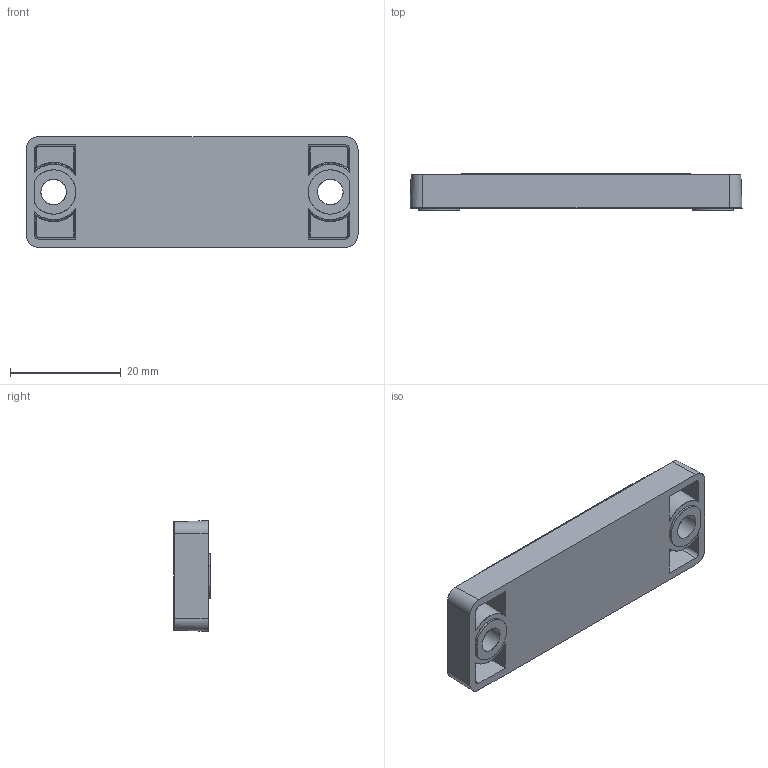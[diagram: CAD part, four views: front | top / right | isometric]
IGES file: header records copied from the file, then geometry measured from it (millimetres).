
Global section: file name: E:\lem\3DCAD_MTKS20x40_1.igs; native system: NX V8.5; preprocessor: SIEMENS PLM Software NX 8.5; date: 20170410.142213; units: millimetre
Bounding box: 60 x 6.6 x 20 mm (x, y, z)
Surface area: 3953.7 mm2 (no closed solid volume)
Topology: 0 solids, 0 shells, 72 faces, 695 edges, 943 vertices
Faces by surface type: bspline 72
